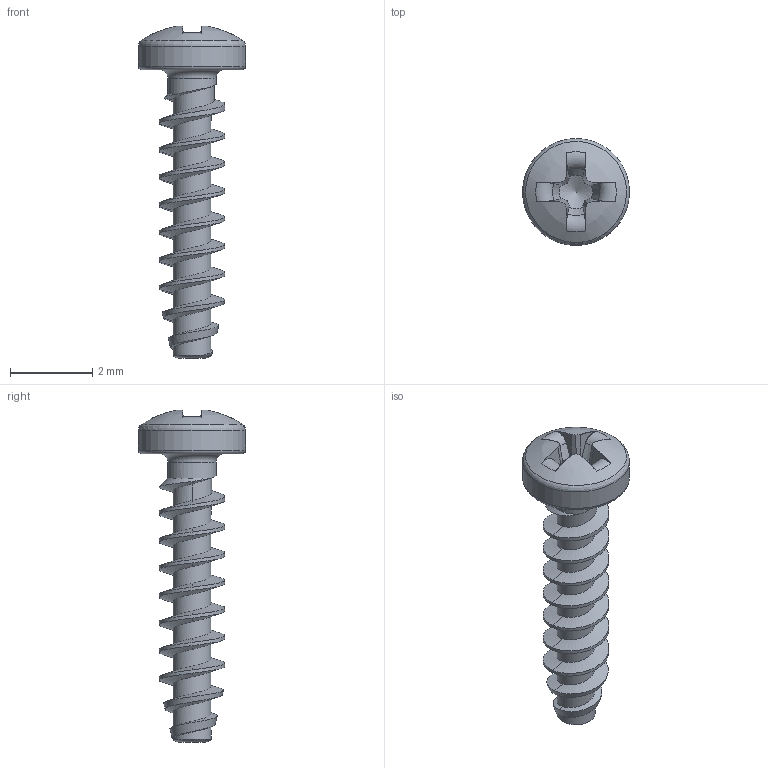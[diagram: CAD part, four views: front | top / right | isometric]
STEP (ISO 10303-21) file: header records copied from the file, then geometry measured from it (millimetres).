
FILE_DESCRIPTION(/* description */ (''),/* implementation_level */ '2;1');
FILE_NAME(/* name */ 'KN1032-STS-16x7-H0.step',/* time_stamp */ '2018-08-15T15:15:14+02:00',/* author */ (''),/* organization */ (''),/* preprocessor_version */ 'ST-DEVELOPER v16',/* originating_system */ 'SIEMENS PLM Software NX 10.0',/* authorisation */ '');
FILE_SCHEMA (('AUTOMOTIVE_DESIGN { 1 0 10303 214 3 1 1 1 }'));
Length unit declared in the file: millimetre
Products named in the file (1): KN1032-STS-16x7-H0
Bounding box: 2.6 x 2.6 x 8.06 mm (x, y, z)
Volume: 10.9 mm3; surface area: 58.6 mm2
Topology: 1 solids, 1 shells, 61 faces, 172 edges, 113 vertices
Faces by surface type: bspline 22, plane 19, torus 8, cone 7, cylinder 4, sphere 1
Full cylindrical faces by diameter (mm): 1.18 x1, 2.6 x1
Entity records: 3785 total; most frequent: CARTESIAN_POINT 2451, ORIENTED_EDGE 316, DIRECTION 192, EDGE_CURVE 158, VERTEX_POINT 108, B_SPLINE_CURVE_WITH_KNOTS 86, AXIS2_PLACEMENT_3D 80, EDGE_LOOP 69
